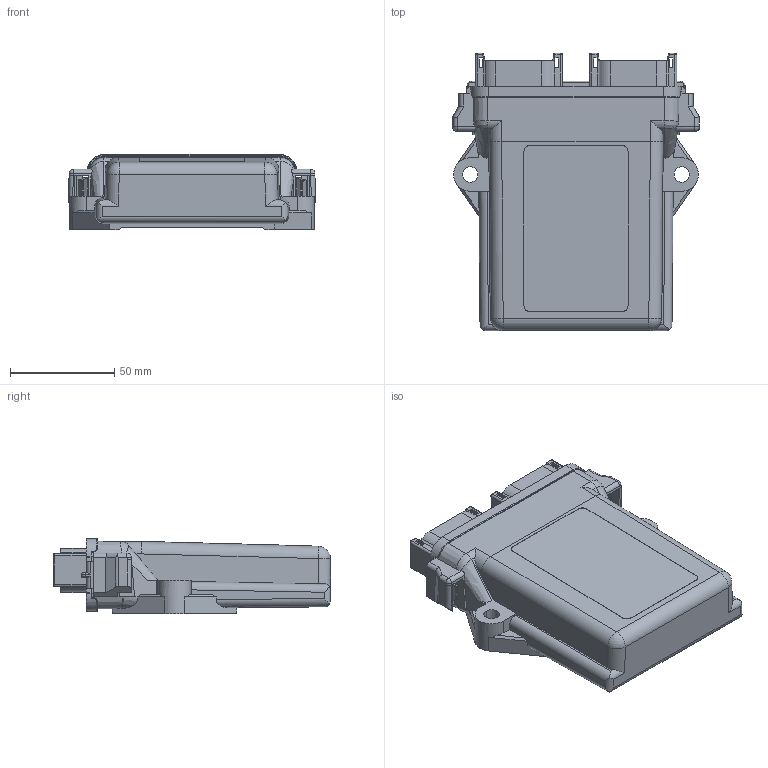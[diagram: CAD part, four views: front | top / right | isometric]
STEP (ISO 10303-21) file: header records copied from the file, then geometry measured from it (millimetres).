
FILE_DESCRIPTION (( 'STEP AP203' ), '1' );
FILE_NAME ('Deutsch_Box.STEP', '2013-05-29T15:59:18', ( '' ), ( '' ), 'SwSTEP 2.0', 'SolidWorks 2012', '' );
FILE_SCHEMA (( 'CONFIG_CONTROL_DESIGN' ));
Length unit declared in the file: inch
Products named in the file (6): Deutsch_Box; 186-01-669; XE-001-501_LADD; Conn and Board Assembly Draft 6; Deutsch_PCB Draft 6; Deutsch_Connector 3-15-13
Assembly tree (5 placements, depth 3):
  Deutsch_Box
    Conn and Board Assembly Draft 6
      Deutsch_Connector 3-15-13
      Deutsch_PCB Draft 6
    XE-001-501_LADD
    186-01-669
Bounding box: 118.62 x 133.16 x 36.1 mm (x, y, z)
Volume: 274476.1 mm3; surface area: 132541.9 mm2
Topology: 5 solids, 5 shells, 2484 faces, 6652 edges, 4118 vertices
Faces by surface type: plane 1258, cylinder 723, bspline 178, torus 148, cone 127, sphere 50
Entity records: 79990 total; most frequent: CARTESIAN_POINT 19331, ORIENTED_EDGE 13024, DIRECTION 12038, EDGE_CURVE 6512, LINE 4314, VECTOR 4314, VERTEX_POINT 4118, AXIS2_PLACEMENT_3D 3862
